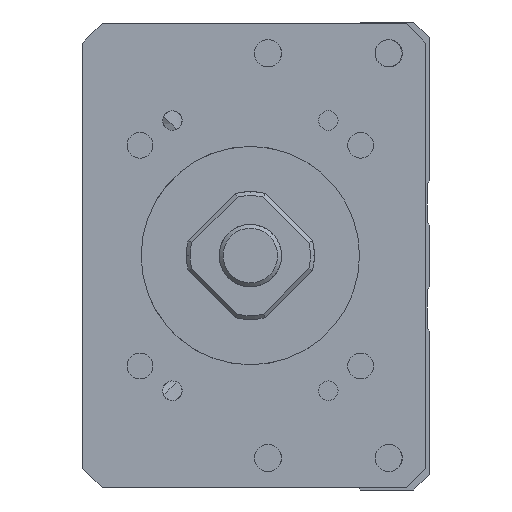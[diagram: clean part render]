
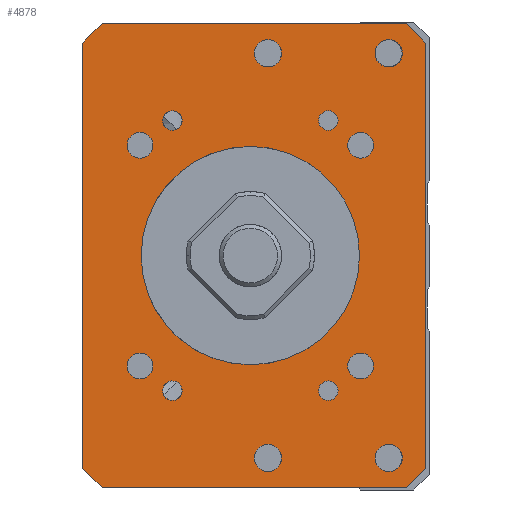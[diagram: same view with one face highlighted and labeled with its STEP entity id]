
A CAD part, left-side view. The second image highlights one B-rep face of the part: STEP entity #4878.
In plain terms, the highlighted planar face has unit normal (-1, 0, 0).
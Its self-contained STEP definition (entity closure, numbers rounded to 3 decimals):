
#3837=FACE_BOUND('',#6353,.T.);
#3838=FACE_BOUND('',#6354,.T.);
#3839=FACE_BOUND('',#6355,.T.);
#3840=FACE_BOUND('',#6356,.T.);
#3841=FACE_BOUND('',#6357,.T.);
#3842=FACE_BOUND('',#6358,.T.);
#3843=FACE_BOUND('',#6359,.T.);
#3844=FACE_BOUND('',#6360,.T.);
#3845=FACE_BOUND('',#6361,.T.);
#3846=FACE_BOUND('',#6362,.T.);
#3847=FACE_BOUND('',#6363,.T.);
#3848=FACE_BOUND('',#6364,.T.);
#3849=FACE_BOUND('',#6365,.T.);
#3850=FACE_BOUND('',#6366,.T.);
#4356=CIRCLE('',#14044,14.);
#4365=CIRCLE('',#14055,1.65);
#4366=CIRCLE('',#14056,1.65);
#4367=CIRCLE('',#14057,1.65);
#4368=CIRCLE('',#14058,1.65);
#4369=CIRCLE('',#14059,1.25);
#4370=CIRCLE('',#14060,1.75);
#4371=CIRCLE('',#14061,1.25);
#4372=CIRCLE('',#14062,1.75);
#4373=CIRCLE('',#14063,1.25);
#4374=CIRCLE('',#14064,1.75);
#4375=CIRCLE('',#14065,1.75);
#4376=CIRCLE('',#14066,1.25);
#4878=ADVANCED_FACE('',(#3837,#3838,#3839,#3840,#3841,#3842,#3843,#3844,
#3845,#3846,#3847,#3848,#3849,#3850),#5399,.F.);
#5399=PLANE('',#14067);
#6353=EDGE_LOOP('',(#8255));
#6354=EDGE_LOOP('',(#8256));
#6355=EDGE_LOOP('',(#8257));
#6356=EDGE_LOOP('',(#8258));
#6357=EDGE_LOOP('',(#8259));
#6358=EDGE_LOOP('',(#8260));
#6359=EDGE_LOOP('',(#8261));
#6360=EDGE_LOOP('',(#8262));
#6361=EDGE_LOOP('',(#8263));
#6362=EDGE_LOOP('',(#8264,#8265,#8266,#8267,#8268,#8269,#8270,#8271));
#6363=EDGE_LOOP('',(#8272));
#6364=EDGE_LOOP('',(#8273));
#6365=EDGE_LOOP('',(#8274));
#6366=EDGE_LOOP('',(#8275));
#8255=ORIENTED_EDGE('',*,*,#11267,.F.);
#8256=ORIENTED_EDGE('',*,*,#11268,.F.);
#8257=ORIENTED_EDGE('',*,*,#11269,.F.);
#8258=ORIENTED_EDGE('',*,*,#11270,.F.);
#8259=ORIENTED_EDGE('',*,*,#11271,.F.);
#8260=ORIENTED_EDGE('',*,*,#11272,.T.);
#8261=ORIENTED_EDGE('',*,*,#11273,.F.);
#8262=ORIENTED_EDGE('',*,*,#11274,.F.);
#8263=ORIENTED_EDGE('',*,*,#11275,.F.);
#8264=ORIENTED_EDGE('',*,*,#11264,.T.);
#8265=ORIENTED_EDGE('',*,*,#11276,.T.);
#8266=ORIENTED_EDGE('',*,*,#11277,.F.);
#8267=ORIENTED_EDGE('',*,*,#11278,.T.);
#8268=ORIENTED_EDGE('',*,*,#11279,.F.);
#8269=ORIENTED_EDGE('',*,*,#11280,.T.);
#8270=ORIENTED_EDGE('',*,*,#11281,.T.);
#8271=ORIENTED_EDGE('',*,*,#11282,.T.);
#8272=ORIENTED_EDGE('',*,*,#11283,.F.);
#8273=ORIENTED_EDGE('',*,*,#11284,.F.);
#8274=ORIENTED_EDGE('',*,*,#11285,.F.);
#8275=ORIENTED_EDGE('',*,*,#11244,.F.);
#10073=VERTEX_POINT('',#19021);
#10093=VERTEX_POINT('',#19097);
#10094=VERTEX_POINT('',#19099);
#10096=VERTEX_POINT('',#19105);
#10097=VERTEX_POINT('',#19107);
#10098=VERTEX_POINT('',#19109);
#10099=VERTEX_POINT('',#19111);
#10100=VERTEX_POINT('',#19113);
#10101=VERTEX_POINT('',#19115);
#10102=VERTEX_POINT('',#19117);
#10103=VERTEX_POINT('',#19119);
#10104=VERTEX_POINT('',#19121);
#10105=VERTEX_POINT('',#19123);
#10106=VERTEX_POINT('',#19125);
#10107=VERTEX_POINT('',#19127);
#10108=VERTEX_POINT('',#19129);
#10109=VERTEX_POINT('',#19131);
#10110=VERTEX_POINT('',#19133);
#10111=VERTEX_POINT('',#19136);
#10112=VERTEX_POINT('',#19138);
#10113=VERTEX_POINT('',#19140);
#11244=EDGE_CURVE('',#10073,#10073,#4356,.T.);
#11264=EDGE_CURVE('',#10094,#10093,#12442,.T.);
#11267=EDGE_CURVE('',#10096,#10096,#4365,.T.);
#11268=EDGE_CURVE('',#10097,#10097,#4366,.T.);
#11269=EDGE_CURVE('',#10098,#10098,#4367,.T.);
#11270=EDGE_CURVE('',#10099,#10099,#4368,.T.);
#11271=EDGE_CURVE('',#10100,#10100,#4369,.T.);
#11272=EDGE_CURVE('',#10101,#10101,#4370,.T.);
#11273=EDGE_CURVE('',#10102,#10102,#4371,.T.);
#11274=EDGE_CURVE('',#10103,#10103,#4372,.T.);
#11275=EDGE_CURVE('',#10104,#10104,#4373,.T.);
#11276=EDGE_CURVE('',#10093,#10105,#12444,.T.);
#11277=EDGE_CURVE('',#10106,#10105,#12445,.T.);
#11278=EDGE_CURVE('',#10106,#10107,#12446,.T.);
#11279=EDGE_CURVE('',#10108,#10107,#12447,.T.);
#11280=EDGE_CURVE('',#10108,#10109,#12448,.T.);
#11281=EDGE_CURVE('',#10109,#10110,#12449,.T.);
#11282=EDGE_CURVE('',#10110,#10094,#12450,.T.);
#11283=EDGE_CURVE('',#10111,#10111,#4374,.T.);
#11284=EDGE_CURVE('',#10112,#10112,#4375,.T.);
#11285=EDGE_CURVE('',#10113,#10113,#4376,.T.);
#12442=LINE('',#19098,#13277);
#12444=LINE('',#19122,#13279);
#12445=LINE('',#19124,#13280);
#12446=LINE('',#19126,#13281);
#12447=LINE('',#19128,#13282);
#12448=LINE('',#19130,#13283);
#12449=LINE('',#19132,#13284);
#12450=LINE('',#19134,#13285);
#13277=VECTOR('',#16005,1.);
#13279=VECTOR('',#16029,1.);
#13280=VECTOR('',#16030,1.);
#13281=VECTOR('',#16031,1.);
#13282=VECTOR('',#16032,1.);
#13283=VECTOR('',#16033,1.);
#13284=VECTOR('',#16034,1.);
#13285=VECTOR('',#16035,1.);
#14044=AXIS2_PLACEMENT_3D('',#19020,#15979,#15980);
#14055=AXIS2_PLACEMENT_3D('',#19104,#16011,#16012);
#14056=AXIS2_PLACEMENT_3D('',#19106,#16013,#16014);
#14057=AXIS2_PLACEMENT_3D('',#19108,#16015,#16016);
#14058=AXIS2_PLACEMENT_3D('',#19110,#16017,#16018);
#14059=AXIS2_PLACEMENT_3D('',#19112,#16019,#16020);
#14060=AXIS2_PLACEMENT_3D('',#19114,#16021,#16022);
#14061=AXIS2_PLACEMENT_3D('',#19116,#16023,#16024);
#14062=AXIS2_PLACEMENT_3D('',#19118,#16025,#16026);
#14063=AXIS2_PLACEMENT_3D('',#19120,#16027,#16028);
#14064=AXIS2_PLACEMENT_3D('',#19135,#16036,#16037);
#14065=AXIS2_PLACEMENT_3D('',#19137,#16038,#16039);
#14066=AXIS2_PLACEMENT_3D('',#19139,#16040,#16041);
#14067=AXIS2_PLACEMENT_3D('',#19141,#16042,#16043);
#15979=DIRECTION('',(-1.,0.,0.));
#15980=DIRECTION('',(0.,1.,0.));
#16005=DIRECTION('',(0.,0.,-1.));
#16011=DIRECTION('',(-1.,0.,0.));
#16012=DIRECTION('',(0.,0.,1.));
#16013=DIRECTION('',(-1.,0.,0.));
#16014=DIRECTION('',(0.,0.,1.));
#16015=DIRECTION('',(-1.,0.,0.));
#16016=DIRECTION('',(0.,0.,1.));
#16017=DIRECTION('',(-1.,0.,0.));
#16018=DIRECTION('',(0.,0.,1.));
#16019=DIRECTION('',(-1.,0.,0.));
#16020=DIRECTION('',(0.,1.,0.));
#16021=DIRECTION('',(1.,0.,0.));
#16022=DIRECTION('',(0.,0.,1.));
#16023=DIRECTION('',(-1.,0.,0.));
#16024=DIRECTION('',(0.,1.,0.));
#16025=DIRECTION('',(-1.,0.,0.));
#16026=DIRECTION('',(0.,0.,1.));
#16027=DIRECTION('',(-1.,0.,0.));
#16028=DIRECTION('',(0.,1.,0.));
#16029=DIRECTION('',(0.,-0.707,-0.707));
#16030=DIRECTION('',(0.,1.,0.));
#16031=DIRECTION('',(0.,-0.707,0.707));
#16032=DIRECTION('',(0.,0.,-1.));
#16033=DIRECTION('',(0.,0.707,0.707));
#16034=DIRECTION('',(0.,1.,0.));
#16035=DIRECTION('',(0.,0.707,-0.707));
#16036=DIRECTION('',(-1.,0.,0.));
#16037=DIRECTION('',(0.,0.,1.));
#16038=DIRECTION('',(-1.,0.,0.));
#16039=DIRECTION('',(0.,0.,1.));
#16040=DIRECTION('',(-1.,0.,0.));
#16041=DIRECTION('',(0.,1.,0.));
#16042=DIRECTION('',(1.,0.,0.));
#16043=DIRECTION('',(0.,1.,0.));
#19020=CARTESIAN_POINT('',(-211.,0.,-500.));
#19021=CARTESIAN_POINT('',(-211.,14.,-500.));
#19097=CARTESIAN_POINT('',(-211.,21.499,-527.25));
#19098=CARTESIAN_POINT('',(-211.,21.499,-470.25));
#19099=CARTESIAN_POINT('',(-211.,21.499,-472.75));
#19104=CARTESIAN_POINT('',(-211.,14.142,-485.858));
#19105=CARTESIAN_POINT('',(-211.,14.142,-484.208));
#19106=CARTESIAN_POINT('',(-211.,-14.142,-485.858));
#19107=CARTESIAN_POINT('',(-211.,-14.142,-484.208));
#19108=CARTESIAN_POINT('',(-211.,14.142,-514.142));
#19109=CARTESIAN_POINT('',(-211.,14.142,-512.492));
#19110=CARTESIAN_POINT('',(-211.,-14.142,-514.142));
#19111=CARTESIAN_POINT('',(-211.,-14.142,-512.492));
#19112=CARTESIAN_POINT('',(-211.,-10.,-517.321));
#19113=CARTESIAN_POINT('',(-211.,-8.75,-517.321));
#19114=CARTESIAN_POINT('',(-211.,-2.25,-525.936));
#19115=CARTESIAN_POINT('',(-211.,-2.25,-524.186));
#19116=CARTESIAN_POINT('',(-211.,10.,-482.679));
#19117=CARTESIAN_POINT('',(-211.,11.25,-482.679));
#19118=CARTESIAN_POINT('',(-211.,-2.25,-474.064));
#19119=CARTESIAN_POINT('',(-211.,-2.25,-472.314));
#19120=CARTESIAN_POINT('',(-211.,10.,-517.321));
#19121=CARTESIAN_POINT('',(-211.,11.25,-517.321));
#19122=CARTESIAN_POINT('',(-211.,18.999,-529.75));
#19123=CARTESIAN_POINT('',(-211.,18.999,-529.75));
#19124=CARTESIAN_POINT('',(-211.,-22.501,-529.75));
#19125=CARTESIAN_POINT('',(-211.,-20.001,-529.75));
#19126=CARTESIAN_POINT('',(-211.,-22.501,-527.25));
#19127=CARTESIAN_POINT('',(-211.,-22.501,-527.25));
#19128=CARTESIAN_POINT('',(-211.,-22.501,-470.25));
#19129=CARTESIAN_POINT('',(-211.,-22.501,-472.75));
#19130=CARTESIAN_POINT('',(-211.,-22.501,-472.75));
#19131=CARTESIAN_POINT('',(-211.,-20.001,-470.25));
#19132=CARTESIAN_POINT('',(-211.,-22.501,-470.25));
#19133=CARTESIAN_POINT('',(-211.,18.999,-470.25));
#19134=CARTESIAN_POINT('',(-211.,18.999,-470.25));
#19135=CARTESIAN_POINT('',(-211.,-17.75,-474.064));
#19136=CARTESIAN_POINT('',(-211.,-17.75,-472.314));
#19137=CARTESIAN_POINT('',(-211.,-17.75,-525.936));
#19138=CARTESIAN_POINT('',(-211.,-17.75,-524.186));
#19139=CARTESIAN_POINT('',(-211.,-10.,-482.679));
#19140=CARTESIAN_POINT('',(-211.,-8.75,-482.679));
#19141=CARTESIAN_POINT('',(-211.,-22.501,-470.25));
